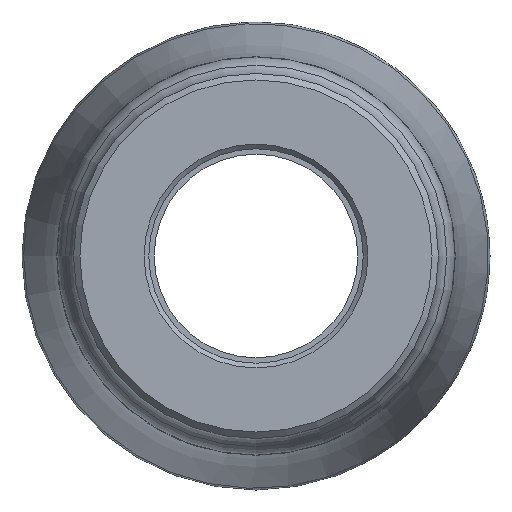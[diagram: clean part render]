
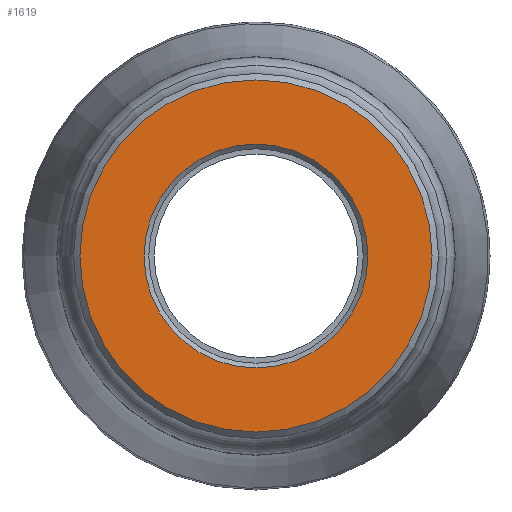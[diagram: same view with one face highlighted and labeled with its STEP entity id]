
A CAD part, left-side view. The second image highlights one B-rep face of the part: STEP entity #1619.
In plain terms, the highlighted planar face has unit normal (-1, 0, 0).
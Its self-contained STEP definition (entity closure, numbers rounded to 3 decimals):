
#29=FACE_BOUND('',#401,.T.);
#212=PLANE('',#1776);
#290=FACE_OUTER_BOUND('',#400,.T.);
#400=EDGE_LOOP('',(#1219));
#401=EDGE_LOOP('',(#1220));
#542=CIRCLE('',#1775,20.326);
#543=CIRCLE('',#1777,31.981);
#728=VERTEX_POINT('',#2890);
#729=VERTEX_POINT('',#2893);
#910=EDGE_CURVE('',#728,#728,#542,.T.);
#911=EDGE_CURVE('',#729,#729,#543,.T.);
#1219=ORIENTED_EDGE('',*,*,#911,.F.);
#1220=ORIENTED_EDGE('',*,*,#910,.F.);
#1619=ADVANCED_FACE('',(#290,#29),#212,.T.);
#1775=AXIS2_PLACEMENT_3D('',#2891,#2067,#2068);
#1776=AXIS2_PLACEMENT_3D('',#2892,#2069,#2070);
#1777=AXIS2_PLACEMENT_3D('',#2894,#2071,#2072);
#2067=DIRECTION('center_axis',(-1.,0.,0.));
#2068=DIRECTION('ref_axis',(0.,-1.,0.));
#2069=DIRECTION('center_axis',(-1.,0.,0.));
#2070=DIRECTION('ref_axis',(0.,0.,1.));
#2071=DIRECTION('center_axis',(1.,0.,0.));
#2072=DIRECTION('ref_axis',(0.,-1.,0.));
#2890=CARTESIAN_POINT('',(0.,20.326,0.));
#2891=CARTESIAN_POINT('Origin',(0.,0.,0.));
#2892=CARTESIAN_POINT('Origin',(0.,33.15,0.));
#2893=CARTESIAN_POINT('',(0.,31.981,0.));
#2894=CARTESIAN_POINT('Origin',(0.,0.,0.));
